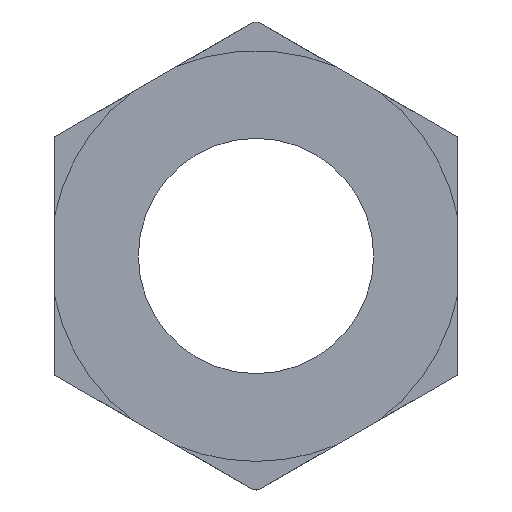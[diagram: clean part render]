
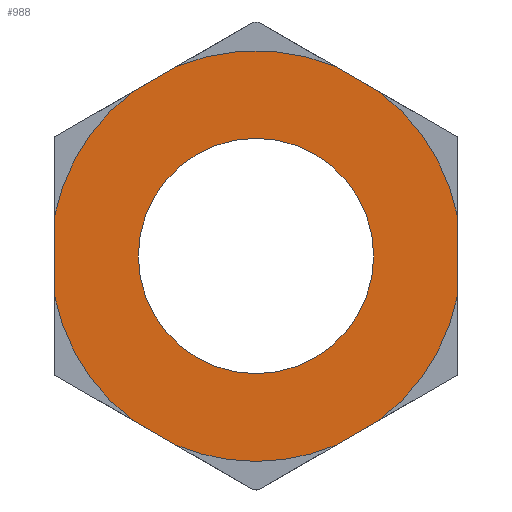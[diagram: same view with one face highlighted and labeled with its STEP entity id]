
A CAD part, left-side view. The second image highlights one B-rep face of the part: STEP entity #988.
In plain terms, the highlighted planar face has unit normal (-1, 0, 0).
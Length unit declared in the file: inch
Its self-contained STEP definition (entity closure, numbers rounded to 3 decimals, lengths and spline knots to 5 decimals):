
#121 = AXIS2_PLACEMENT_3D ( 'NONE', #324, #325, #326 ) ;
#180 = AXIS2_PLACEMENT_3D ( 'NONE', #610, #1132, #1133 ) ;
#182 = AXIS2_PLACEMENT_3D ( 'NONE', #601, #602, #603 ) ;
#183 = AXIS2_PLACEMENT_3D ( 'NONE', #590, #591, #592 ) ;
#184 = AXIS2_PLACEMENT_3D ( 'NONE', #596, #597, #598 ) ;
#190 = AXIS2_PLACEMENT_3D ( 'NONE', #668, #657, #667 ) ;
#193 = AXIS2_PLACEMENT_3D ( 'NONE', #627, #628, #646 ) ;
#194 = AXIS2_PLACEMENT_3D ( 'NONE', #1033, #1034, #1035 ) ;
#202 = AXIS2_PLACEMENT_3D ( 'NONE', #698, #707, #710 ) ;
#210 = AXIS2_PLACEMENT_3D ( 'NONE', #691, #697, #709 ) ;
#213 = EDGE_CURVE ( 'NONE', #829, #785, #968, .T. ) ;
#217 = EDGE_CURVE ( 'NONE', #813, #805, #964, .T. ) ;
#238 = EDGE_CURVE ( 'NONE', #797, #791, #722, .T. ) ;
#243 = EDGE_CURVE ( 'NONE', #829, #811, #723, .T. ) ;
#247 = EDGE_CURVE ( 'NONE', #791, #797, #1112, .T. ) ;
#249 = EDGE_CURVE ( 'NONE', #795, #785, #1129, .T. ) ;
#253 = EDGE_CURVE ( 'NONE', #806, #792, #1126, .T. ) ;
#277 = EDGE_CURVE ( 'NONE', #786, #810, #510, .T. ) ;
#278 = EDGE_CURVE ( 'NONE', #814, #811, #513, .T. ) ;
#279 = EDGE_CURVE ( 'NONE', #805, #806, #515, .T. ) ;
#281 = EDGE_CURVE ( 'NONE', #810, #821, #509, .T. ) ;
#282 = EDGE_CURVE ( 'NONE', #808, #786, #520, .T. ) ;
#283 = EDGE_CURVE ( 'NONE', #814, #821, #518, .T. ) ;
#285 = EDGE_CURVE ( 'NONE', #792, #808, #524, .T. ) ;
#286 = EDGE_CURVE ( 'NONE', #795, #813, #525, .T. ) ;
#316 = PLANE ( 'NONE',  #121 ) ;
#324 = CARTESIAN_POINT ( 'NONE',  ( -4.7, 0.7635, 0. ) ) ;
#325 = DIRECTION ( 'NONE',  ( -1., 0., 0. ) ) ;
#326 = DIRECTION ( 'NONE',  ( 0., 0., 1. ) ) ;
#412 = EDGE_LOOP ( 'NONE', ( #756, #766 ) ) ;
#415 = EDGE_LOOP ( 'NONE', ( #758, #778, #780, #781, #779, #768, #765, #775, #771, #755, #777, #761, #757 ) ) ;
#509 = CIRCLE ( 'NONE', #184, 0.7635 ) ;
#510 = LINE ( 'NONE', #587, #514 ) ;
#513 = CIRCLE ( 'NONE', #183, 0.7635 ) ;
#514 = VECTOR ( 'NONE', #588, 39.37008 ) ;
#515 = LINE ( 'NONE', #1102, #517 ) ;
#517 = VECTOR ( 'NONE', #1101, 39.37008 ) ;
#518 = LINE ( 'NONE', #600, #523 ) ;
#520 = CIRCLE ( 'NONE', #182, 0.7635 ) ;
#523 = VECTOR ( 'NONE', #595, 39.37008 ) ;
#524 = LINE ( 'NONE', #589, #526 ) ;
#525 = CIRCLE ( 'NONE', #180, 0.7635 ) ;
#526 = VECTOR ( 'NONE', #599, 39.37008 ) ;
#577 = FACE_OUTER_BOUND ( 'NONE', #415, .T. ) ;
#584 = FACE_BOUND ( 'NONE', #412, .T. ) ;
#587 = CARTESIAN_POINT ( 'NONE',  ( -4.7, 0.95151, 0.32564 ) ) ;
#588 = DIRECTION ( 'NONE',  ( 0., -0.866, 0.5 ) ) ;
#589 = CARTESIAN_POINT ( 'NONE',  ( -4.7, 0.74904, 0. ) ) ;
#590 = CARTESIAN_POINT ( 'NONE',  ( -4.7, 0., 0. ) ) ;
#591 = DIRECTION ( 'NONE',  ( 1., 0., 0. ) ) ;
#592 = DIRECTION ( 'NONE',  ( 0., 0., -1. ) ) ;
#595 = DIRECTION ( 'NONE',  ( 0., 0.866, 0.5 ) ) ;
#596 = CARTESIAN_POINT ( 'NONE',  ( -4.7, 0., 0. ) ) ;
#597 = DIRECTION ( 'NONE',  ( 1., 0., 0. ) ) ;
#598 = DIRECTION ( 'NONE',  ( 0., 0., -1. ) ) ;
#599 = DIRECTION ( 'NONE',  ( 0., 0., 1. ) ) ;
#600 = CARTESIAN_POINT ( 'NONE',  ( -4.7, 0.19374, 0.98686 ) ) ;
#601 = CARTESIAN_POINT ( 'NONE',  ( -4.7, 0., 0. ) ) ;
#602 = DIRECTION ( 'NONE',  ( 1., 0., 0. ) ) ;
#603 = DIRECTION ( 'NONE',  ( 0., 0., -1. ) ) ;
#610 = CARTESIAN_POINT ( 'NONE',  ( -4.7, 0., 0. ) ) ;
#627 = CARTESIAN_POINT ( 'NONE',  ( -4.7, 0., 0. ) ) ;
#628 = DIRECTION ( 'NONE',  ( 1., 0., 0. ) ) ;
#646 = DIRECTION ( 'NONE',  ( 0., 0., -1. ) ) ;
#657 = DIRECTION ( 'NONE',  ( 1., 0., 0. ) ) ;
#667 = DIRECTION ( 'NONE',  ( 0., 0., -1. ) ) ;
#668 = CARTESIAN_POINT ( 'NONE',  ( -4.7, 0., 0. ) ) ;
#691 = CARTESIAN_POINT ( 'NONE',  ( -4.7, 0., 0. ) ) ;
#695 = DIRECTION ( 'NONE',  ( 0., -0.866, 0.5 ) ) ;
#696 = CARTESIAN_POINT ( 'NONE',  ( -4.7, -0.74904, 0. ) ) ;
#697 = DIRECTION ( 'NONE',  ( 1., 0., 0. ) ) ;
#698 = CARTESIAN_POINT ( 'NONE',  ( -4.7, 0., 0. ) ) ;
#702 = CARTESIAN_POINT ( 'NONE',  ( -4.7, 0.19374, -0.98686 ) ) ;
#707 = DIRECTION ( 'NONE',  ( 1., 0., 0. ) ) ;
#709 = DIRECTION ( 'NONE',  ( 0., 0., -1. ) ) ;
#710 = DIRECTION ( 'NONE',  ( 0., 0., -1. ) ) ;
#712 = DIRECTION ( 'NONE',  ( 0., 0., 1. ) ) ;
#722 = CIRCLE ( 'NONE', #210, 0.4375 ) ;
#723 = LINE ( 'NONE', #696, #745 ) ;
#745 = VECTOR ( 'NONE', #712, 39.37008 ) ;
#755 = ORIENTED_EDGE ( 'NONE', *, *, #286, .F. ) ;
#756 = ORIENTED_EDGE ( 'NONE', *, *, #247, .T. ) ;
#757 = ORIENTED_EDGE ( 'NONE', *, *, #243, .T. ) ;
#758 = ORIENTED_EDGE ( 'NONE', *, *, #278, .F. ) ;
#761 = ORIENTED_EDGE ( 'NONE', *, *, #213, .F. ) ;
#765 = ORIENTED_EDGE ( 'NONE', *, *, #253, .F. ) ;
#766 = ORIENTED_EDGE ( 'NONE', *, *, #238, .T. ) ;
#768 = ORIENTED_EDGE ( 'NONE', *, *, #285, .F. ) ;
#771 = ORIENTED_EDGE ( 'NONE', *, *, #217, .F. ) ;
#775 = ORIENTED_EDGE ( 'NONE', *, *, #279, .F. ) ;
#777 = ORIENTED_EDGE ( 'NONE', *, *, #249, .T. ) ;
#778 = ORIENTED_EDGE ( 'NONE', *, *, #283, .T. ) ;
#779 = ORIENTED_EDGE ( 'NONE', *, *, #282, .F. ) ;
#780 = ORIENTED_EDGE ( 'NONE', *, *, #281, .F. ) ;
#781 = ORIENTED_EDGE ( 'NONE', *, *, #277, .F. ) ;
#785 = VERTEX_POINT ( 'NONE', #941 ) ;
#786 = VERTEX_POINT ( 'NONE', #943 ) ;
#791 = VERTEX_POINT ( 'NONE', #946 ) ;
#792 = VERTEX_POINT ( 'NONE', #947 ) ;
#795 = VERTEX_POINT ( 'NONE', #950 ) ;
#797 = VERTEX_POINT ( 'NONE', #952 ) ;
#805 = VERTEX_POINT ( 'NONE', #846 ) ;
#806 = VERTEX_POINT ( 'NONE', #847 ) ;
#808 = VERTEX_POINT ( 'NONE', #849 ) ;
#810 = VERTEX_POINT ( 'NONE', #851 ) ;
#811 = VERTEX_POINT ( 'NONE', #852 ) ;
#813 = VERTEX_POINT ( 'NONE', #854 ) ;
#814 = VERTEX_POINT ( 'NONE', #855 ) ;
#821 = VERTEX_POINT ( 'NONE', #862 ) ;
#829 = VERTEX_POINT ( 'NONE', #870 ) ;
#846 = CARTESIAN_POINT ( 'NONE',  ( -4.7, 0.29805, -0.70292 ) ) ;
#847 = CARTESIAN_POINT ( 'NONE',  ( -4.7, 0.45973, -0.60958 ) ) ;
#849 = CARTESIAN_POINT ( 'NONE',  ( -4.7, 0.74904, 0.14791 ) ) ;
#851 = CARTESIAN_POINT ( 'NONE',  ( -4.7, 0.29805, 0.70292 ) ) ;
#852 = CARTESIAN_POINT ( 'NONE',  ( -4.7, -0.74904, 0.14791 ) ) ;
#854 = CARTESIAN_POINT ( 'NONE',  ( -4.7, 0., -0.7635 ) ) ;
#855 = CARTESIAN_POINT ( 'NONE',  ( -4.7, -0.45973, 0.60958 ) ) ;
#862 = CARTESIAN_POINT ( 'NONE',  ( -4.7, -0.29805, 0.70292 ) ) ;
#870 = CARTESIAN_POINT ( 'NONE',  ( -4.7, -0.74904, -0.14791 ) ) ;
#941 = CARTESIAN_POINT ( 'NONE',  ( -4.7, -0.45973, -0.60958 ) ) ;
#943 = CARTESIAN_POINT ( 'NONE',  ( -4.7, 0.45973, 0.60958 ) ) ;
#946 = CARTESIAN_POINT ( 'NONE',  ( -4.7, 0., -0.4375 ) ) ;
#947 = CARTESIAN_POINT ( 'NONE',  ( -4.7, 0.74904, -0.14791 ) ) ;
#950 = CARTESIAN_POINT ( 'NONE',  ( -4.7, -0.29805, -0.70292 ) ) ;
#952 = CARTESIAN_POINT ( 'NONE',  ( -4.7, 0., 0.4375 ) ) ;
#964 = CIRCLE ( 'NONE', #194, 0.7635 ) ;
#968 = CIRCLE ( 'NONE', #193, 0.7635 ) ;
#988 = ADVANCED_FACE ( 'NONE', ( #577, #584 ), #316, .T. ) ;
#1033 = CARTESIAN_POINT ( 'NONE',  ( -4.7, 0., 0. ) ) ;
#1034 = DIRECTION ( 'NONE',  ( 1., 0., 0. ) ) ;
#1035 = DIRECTION ( 'NONE',  ( 0., 0., -1. ) ) ;
#1101 = DIRECTION ( 'NONE',  ( 0., 0.866, 0.5 ) ) ;
#1102 = CARTESIAN_POINT ( 'NONE',  ( -4.7, 0.95151, -0.32564 ) ) ;
#1112 = CIRCLE ( 'NONE', #202, 0.4375 ) ;
#1126 = CIRCLE ( 'NONE', #190, 0.7635 ) ;
#1129 = LINE ( 'NONE', #702, #1131 ) ;
#1131 = VECTOR ( 'NONE', #695, 39.37008 ) ;
#1132 = DIRECTION ( 'NONE',  ( 1., 0., 0. ) ) ;
#1133 = DIRECTION ( 'NONE',  ( 0., 0., -1. ) ) ;
